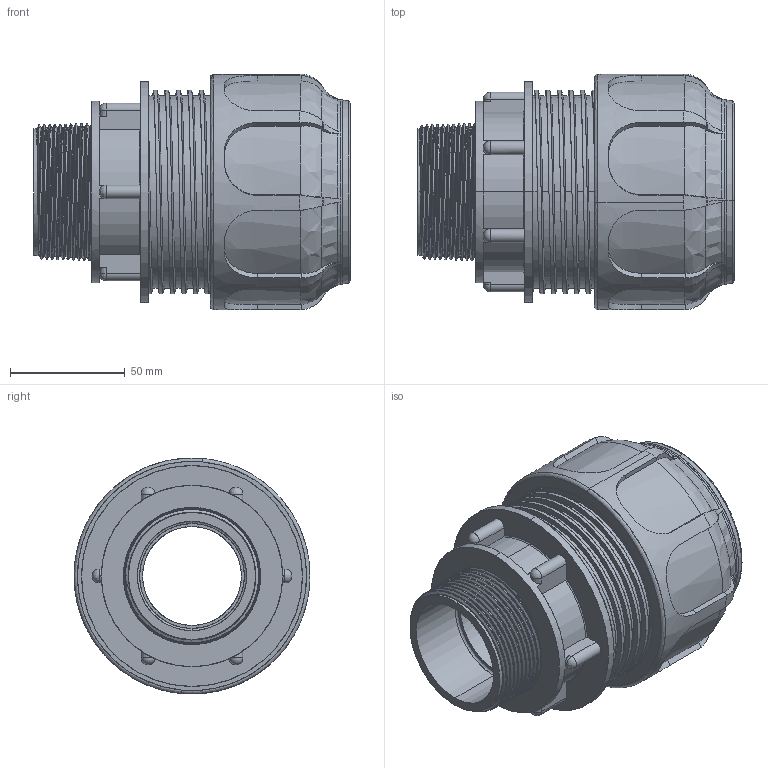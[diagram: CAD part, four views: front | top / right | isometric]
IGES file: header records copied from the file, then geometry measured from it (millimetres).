
Start section: SolidWorks IGES file using analytic representation for surfaces
Global section: file name: P:\DisegniUfficioTecnico\Articoli\ARTICOLI_3D\DISEGNI_STEP_IGS_SITO\02004\02004_IGS\02004.1550.IGS; native system: SolidWorks 2011; preprocessor: SolidWorks 2011; author: giacomo; date: 170522.162831; units: millimetre
Bounding box: 137.51 x 102.6 x 102.6 mm (x, y, z)
Surface area: 148402.7 mm2 (no closed solid volume)
Topology: 0 solids, 0 shells, 433 faces, 11475 edges, 11467 vertices
Faces by surface type: bspline 247, revolution 186
